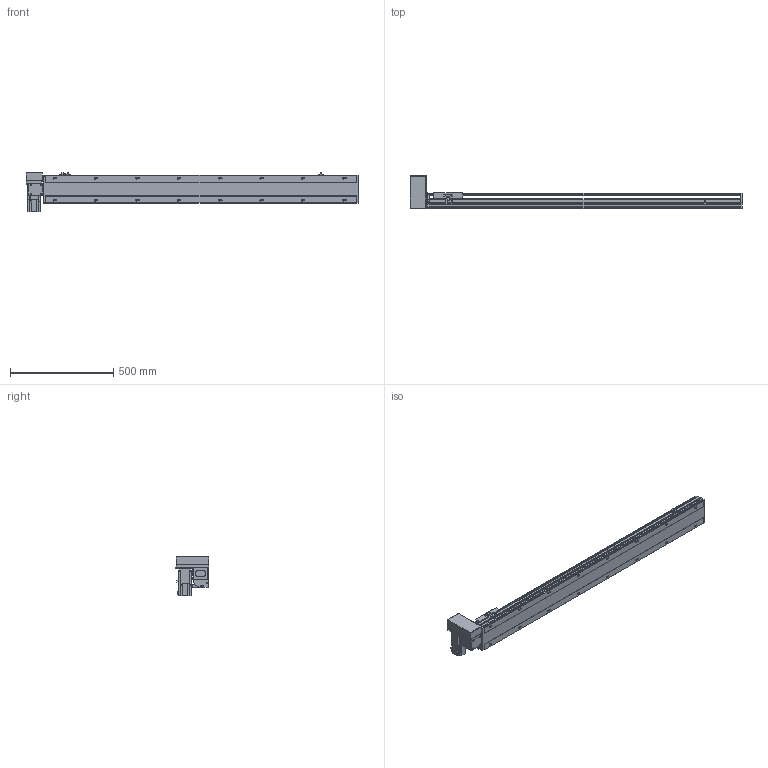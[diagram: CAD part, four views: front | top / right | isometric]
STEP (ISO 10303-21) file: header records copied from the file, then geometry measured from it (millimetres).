
FILE_DESCRIPTION( ( 'STEP AP214' ), '1' );
FILE_NAME( 'x:/temp/worker_4/temp/exporttempdir_2248_107_6miaq/format_0/PBS140-P40-S1250-RU-T40-C1-N(0).stp', '2022-06-07T05:54:47', ( 'License CC BY-ND 4.0' ), ( 'CADENAS' ), ' ', 'PARTsolutions', ' ' );
FILE_SCHEMA( ( 'AUTOMOTIVE_DESIGN { 1 0 10303 214 1 1 1 1 }' ) );
Length unit declared in the file: millimetre
Products named in the file (7): PBS140-P40-S1250-RU-T40-C1-N(0); _PBS140-S1250()_body; _PBS140T-RU_motors; _T40-p1; _PBS140_sliser; _PBS140_plant; _PBS140_sensor
Assembly tree (8 placements, depth 2):
  PBS140-P40-S1250-RU-T40-C1-N(0)
    _PBS140-S1250()_body
    _PBS140T-RU_motors
    _T40-p1
    _PBS140_sliser
    _PBS140_plant
    _PBS140_sensor  x3
Bounding box: 1604 x 162.5 x 189.7 mm (x, y, z)
Volume: 7562307.8 mm3; surface area: 1312489.2 mm2
Topology: 8 solids, 8 shells, 1075 faces, 2836 edges, 1853 vertices
Faces by surface type: plane 692, cylinder 331, cone 42, sphere 8, torus 2
Full cylindrical faces by diameter (mm): 3.242 x4, 4 x2, 4.134 x4, 4.4 x8, 4.5 x2, 4.8 x4, 4.917 x24, 5.5 x7, 6 x2, 7 x18, 7.5 x8, 8 x12, 8.5 x4, 10.5 x16, 14 x1, 30 x2, 50 x2
Entity records: 39289 total; most frequent: CARTESIAN_POINT 6251, DIRECTION 5197, ORIENTED_EDGE 4912, EDGE_CURVE 2456, AXIS2_PLACEMENT_3D 1807, VERTEX_POINT 1701, LINE 1583, VECTOR 1583
